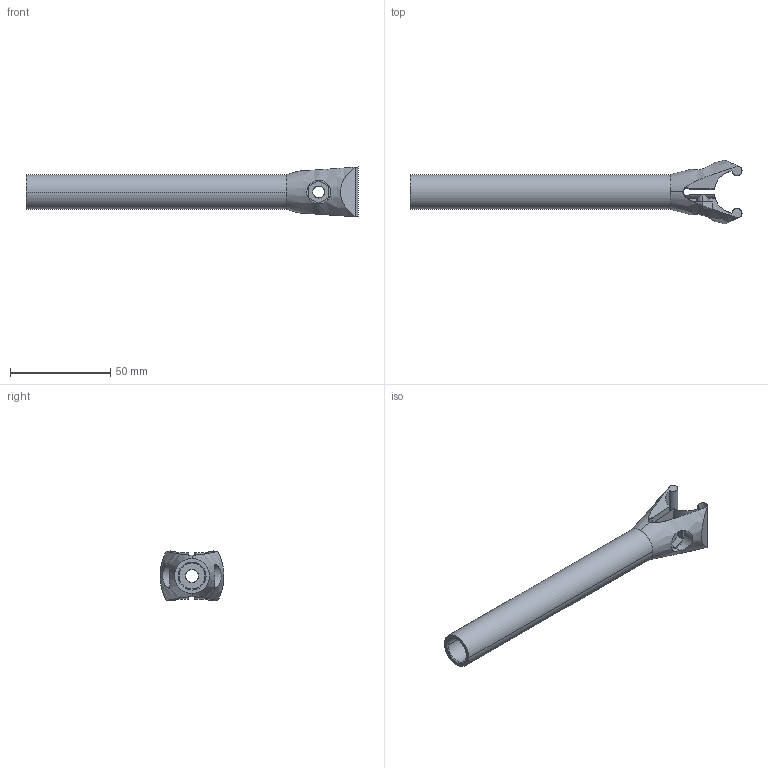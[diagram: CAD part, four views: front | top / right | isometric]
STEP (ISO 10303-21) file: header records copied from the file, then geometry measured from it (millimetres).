
FILE_DESCRIPTION (( 'STEP AP214' ), '1' );
FILE_NAME ('FGRK 18X....step', '2017-04-05T07:43:26', ( '' ), ( '' ), 'SwSTEP 2.0', 'SolidWorks 2015', '' );
FILE_SCHEMA (( 'AUTOMOTIVE_DESIGN' ));
Length unit declared in the file: millimetre
Products named in the file (1): FGRK 18X...
Bounding box: 166 x 31.98 x 25 mm (x, y, z)
Volume: 23291.2 mm3; surface area: 17550.5 mm2
Topology: 1 solids, 1 shells, 62 faces, 168 edges, 110 vertices
Faces by surface type: cylinder 30, plane 28, cone 4
Entity records: 2446 total; most frequent: CARTESIAN_POINT 929, ORIENTED_EDGE 336, DIRECTION 276, EDGE_CURVE 168, VERTEX_POINT 110, AXIS2_PLACEMENT_3D 93, VECTOR 90, LINE 90
